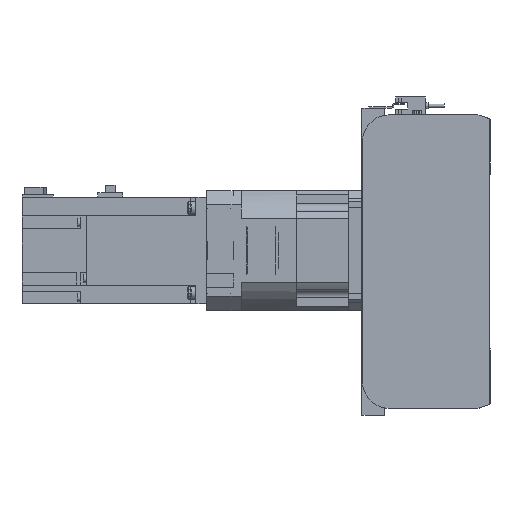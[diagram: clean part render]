
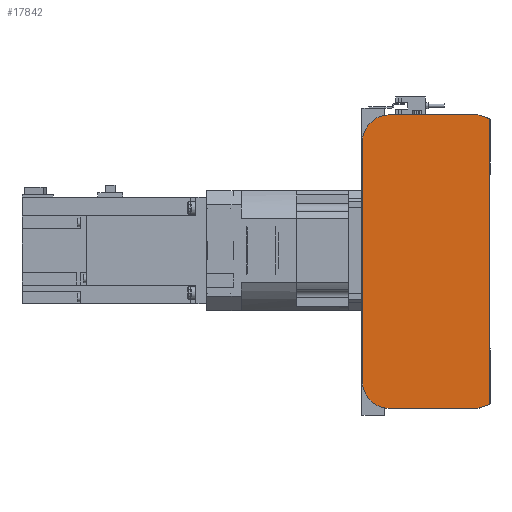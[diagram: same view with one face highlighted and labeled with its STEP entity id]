
A CAD part, left-side view. The second image highlights one B-rep face of the part: STEP entity #17842.
In plain terms, the highlighted planar face has unit normal (-1, 0, 0).
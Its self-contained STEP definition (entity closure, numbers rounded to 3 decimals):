
#1012=CIRCLE('',#19455,20.);
#1013=CIRCLE('',#19458,20.);
#4498=ORIENTED_EDGE('',*,*,#7752,.F.);
#4499=ORIENTED_EDGE('',*,*,#7794,.F.);
#4500=ORIENTED_EDGE('',*,*,#7792,.F.);
#4501=ORIENTED_EDGE('',*,*,#7790,.F.);
#4502=ORIENTED_EDGE('',*,*,#7779,.F.);
#4503=ORIENTED_EDGE('',*,*,#7770,.F.);
#4504=ORIENTED_EDGE('',*,*,#7766,.F.);
#4505=ORIENTED_EDGE('',*,*,#7763,.F.);
#7752=EDGE_CURVE('',#9723,#9724,#11323,.T.);
#7763=EDGE_CURVE('',#9724,#9731,#11334,.T.);
#7766=EDGE_CURVE('',#9731,#9733,#11337,.T.);
#7770=EDGE_CURVE('',#9733,#9734,#11341,.T.);
#7779=EDGE_CURVE('',#9734,#9740,#11350,.T.);
#7790=EDGE_CURVE('',#9740,#9747,#1012,.T.);
#7792=EDGE_CURVE('',#9747,#9748,#11362,.T.);
#7794=EDGE_CURVE('',#9748,#9723,#1013,.T.);
#9723=VERTEX_POINT('',#29389);
#9724=VERTEX_POINT('',#29391);
#9731=VERTEX_POINT('',#29410);
#9733=VERTEX_POINT('',#29416);
#9734=VERTEX_POINT('',#29422);
#9740=VERTEX_POINT('',#29438);
#9747=VERTEX_POINT('',#29457);
#9748=VERTEX_POINT('',#29461);
#11323=LINE('',#29390,#12894);
#11334=LINE('',#29409,#12905);
#11337=LINE('',#29415,#12908);
#11341=LINE('',#29421,#12912);
#11350=LINE('',#29437,#12921);
#11362=LINE('',#29460,#12933);
#12894=VECTOR('',#23602,1000.);
#12905=VECTOR('',#23615,1000.);
#12908=VECTOR('',#23620,1000.);
#12912=VECTOR('',#23626,1000.);
#12921=VECTOR('',#23637,1000.);
#12933=VECTOR('',#23655,1000.);
#14318=EDGE_LOOP('',(#4498,#4499,#4500,#4501,#4502,#4503,#4504,#4505));
#15922=FACE_BOUND('',#14318,.T.);
#16965=PLANE('',#19459);
#17842=ADVANCED_FACE('',(#15922),#16965,.F.);
#19455=AXIS2_PLACEMENT_3D('',#29456,#23650,#23651);
#19458=AXIS2_PLACEMENT_3D('',#29464,#23659,#23660);
#19459=AXIS2_PLACEMENT_3D('',#29465,#23661,#23662);
#23602=DIRECTION('',(0.,-1.,0.));
#23615=DIRECTION('',(0.,-0.945,-0.328));
#23620=DIRECTION('',(0.,0.,-1.));
#23626=DIRECTION('',(0.,0.945,-0.328));
#23637=DIRECTION('',(0.,1.,0.));
#23650=DIRECTION('',(1.,0.,0.));
#23651=DIRECTION('',(0.,0.,-1.));
#23655=DIRECTION('',(0.,0.,1.));
#23659=DIRECTION('',(1.,0.,0.));
#23660=DIRECTION('',(0.,0.,-1.));
#23661=DIRECTION('',(1.,0.,0.));
#23662=DIRECTION('',(0.,0.,-1.));
#29389=CARTESIAN_POINT('',(0.,75.5,110.));
#29390=CARTESIAN_POINT('',(0.,75.5,110.));
#29391=CARTESIAN_POINT('',(0.,9.,110.));
#29409=CARTESIAN_POINT('',(0.,9.,110.));
#29410=CARTESIAN_POINT('',(0.,0.5,107.05));
#29415=CARTESIAN_POINT('',(0.,0.5,107.05));
#29416=CARTESIAN_POINT('',(0.,0.5,-107.05));
#29421=CARTESIAN_POINT('',(0.,0.5,-107.05));
#29422=CARTESIAN_POINT('',(0.,9.,-110.));
#29437=CARTESIAN_POINT('',(0.,9.,-110.));
#29438=CARTESIAN_POINT('',(0.,75.5,-110.));
#29456=CARTESIAN_POINT('',(0.,75.5,-90.));
#29457=CARTESIAN_POINT('',(0.,95.5,-90.));
#29460=CARTESIAN_POINT('',(0.,95.5,-90.));
#29461=CARTESIAN_POINT('',(0.,95.5,90.));
#29464=CARTESIAN_POINT('',(0.,75.5,90.));
#29465=CARTESIAN_POINT('',(0.,75.5,-90.));
